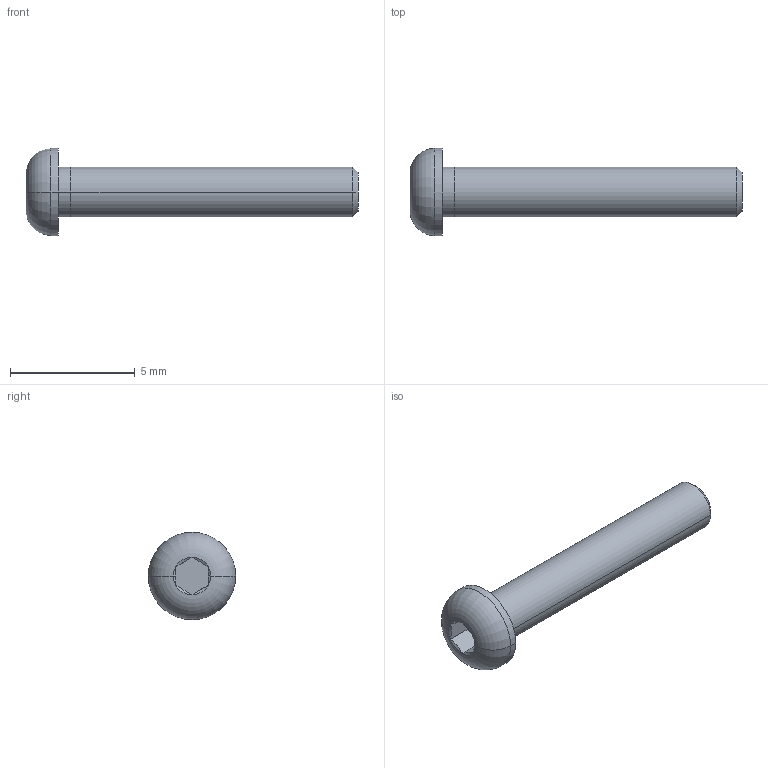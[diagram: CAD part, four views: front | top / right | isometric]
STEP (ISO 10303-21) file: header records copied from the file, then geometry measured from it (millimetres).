
FILE_DESCRIPTION(/* description */ ('(C) Elphel, Inc. 2012. Licensed under CERN OHL v.1.1 or later, see http://ohwr.org/cernohl'),/* implementation_level */ '2;1');
FILE_NAME(/* name */ '0353-99-102',/* time_stamp */ '2012-06-04T20:11:04-06:00',/* author */ (''),/* organization */ ('Elphel, Inc'),/* preprocessor_version */ 'ST-DEVELOPER v12',/* originating_system */ 'VariCAD 2012-1.04; kernel version (20100102)',/* authorisation */ '');
FILE_SCHEMA (('AUTOMOTIVE_DESIGN'));
Length unit declared in the file: millimetre
Products named in the file (1): Part
Bounding box: 13.3 x 3.5 x 3.5 mm (x, y, z)
Volume: 46.5 mm3; surface area: 222.9 mm2
Topology: 2 solids, 2 shells, 33 faces, 64 edges, 36 vertices
Faces by surface type: plane 11, cylinder 10, cone 10, torus 2
Entity records: 1127 total; most frequent: CARTESIAN_POINT 176, DIRECTION 158, ORIENTED_EDGE 128, AXIS2_PLACEMENT_3D 66, EDGE_CURVE 64, EDGE_LOOP 36, VERTEX_POINT 36, PRESENTATION_STYLE_ASSIGNMENT 35
